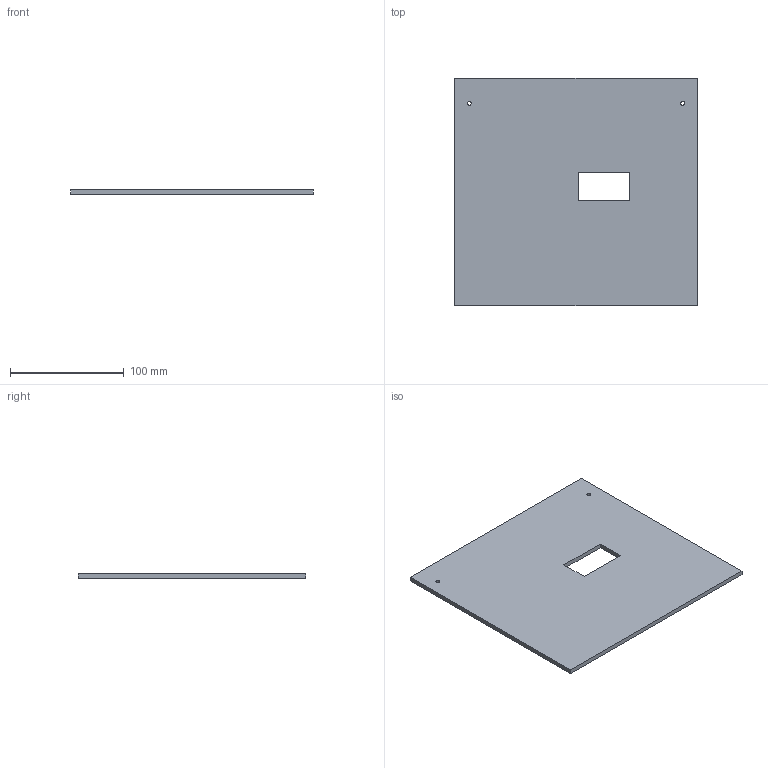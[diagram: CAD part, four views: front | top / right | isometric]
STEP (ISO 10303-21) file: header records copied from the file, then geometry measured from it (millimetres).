
FILE_DESCRIPTION(('Base splice and hand/dowel native rebuild. P1 head/arm retained as imported base geometry.'),'2;1');
FILE_NAME('PILL_BASE_LID_2.step','',(''),(''),'SolidCraft','SolidCraft','');
FILE_SCHEMA(('AP242_MANAGED_MODEL_BASED_3D_ENGINEERING_MIM_LF { 1 0 10303 442 1 1 4 }'));
Length unit declared in the file: millimetre
Products named in the file (1): PILL_BASE_LID_2
Bounding box: 213.33 x 200 x 4 mm (x, y, z)
Volume: 166094 mm3; surface area: 86999.1 mm2
Topology: 1 solids, 1 shells, 12 faces, 34 edges, 24 vertices
Faces by surface type: plane 10, cylinder 2
Full cylindrical faces by diameter (mm): 3.4 x2
Entity records: 322 total; most frequent: ORIENTED_EDGE 68, CARTESIAN_POINT 59, EDGE_CURVE 34, LINE 26, VERTEX_POINT 24, EDGE_LOOP 18, FACE_BOUND 18, AXIS2_PLACEMENT_3D 13
